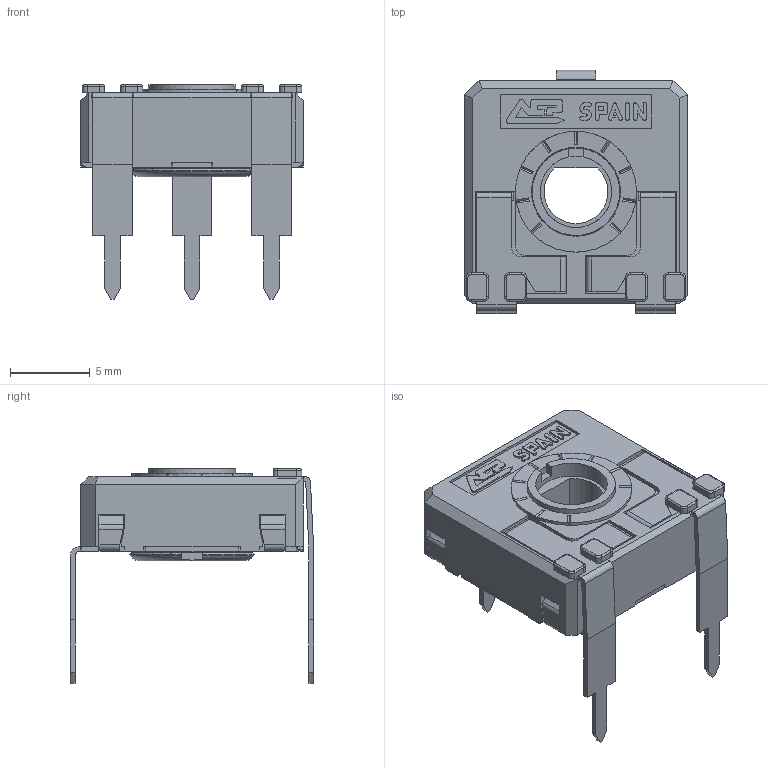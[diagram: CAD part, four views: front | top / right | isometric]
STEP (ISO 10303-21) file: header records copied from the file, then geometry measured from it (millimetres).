
FILE_DESCRIPTION(/* description */ (''),/* implementation_level */ '2;1');
FILE_NAME(/* name */ '\\SERVERACP\intercambio\Ignacio Santa Cecilia\Nueva WEB 2025\CA14 - CE14\CA14FVJ15 RT-RO.stp',/* time_stamp */ '2025-06-12T09:30:39+02:00',/* author */ ('CEM'),/* organization */ (''),/* preprocessor_version */ 'ST-DEVELOPER v17',/* originating_system */ 'Autodesk Inventor 2018',/* authorisation */ '');
FILE_SCHEMA (('AUTOMOTIVE_DESIGN { 1 0 10303 214 3 1 1 }'));
Length unit declared in the file: millimetre
Products named in the file (1): CARCASA CA14 PGA
Bounding box: 14 x 15.3 x 13.5 mm (x, y, z)
Volume: 539.3 mm3; surface area: 1528.6 mm2
Topology: 1 solids, 1 shells, 674 faces, 1905 edges, 1227 vertices
Faces by surface type: plane 499, cylinder 138, torus 23, bspline 8, cone 6
Full cylindrical faces by diameter (mm): 4.5 x1, 5.5 x1, 5.6 x1, 5.752 x1, 6.8 x1, 7.6 x1
Entity records: 22025 total; most frequent: CARTESIAN_POINT 4104, ORIENTED_EDGE 3810, DIRECTION 3555, EDGE_CURVE 1905, LINE 1499, VECTOR 1499, VERTEX_POINT 1227, AXIS2_PLACEMENT_3D 1028
